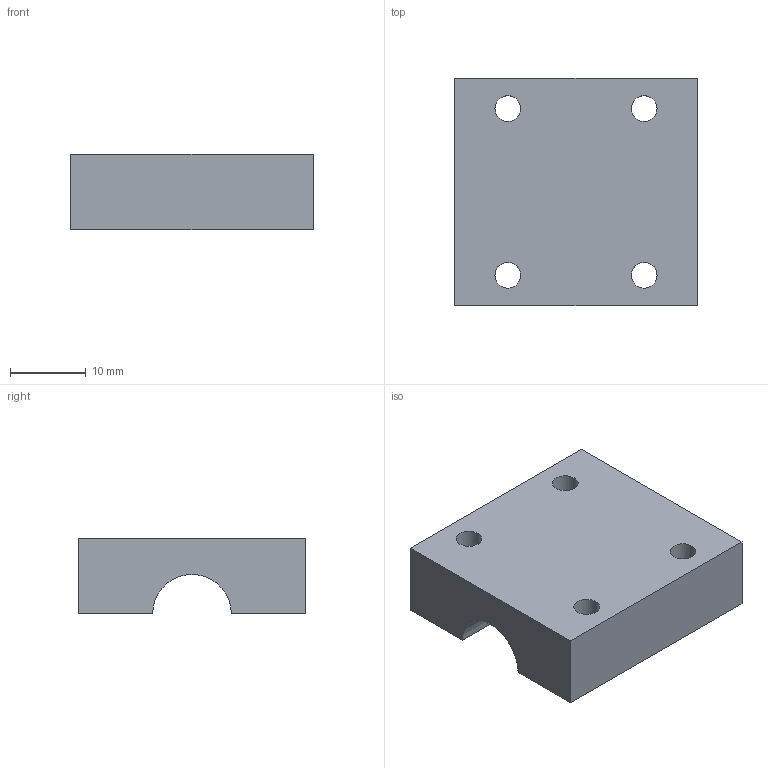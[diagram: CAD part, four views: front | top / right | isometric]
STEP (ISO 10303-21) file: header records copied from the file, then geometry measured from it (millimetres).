
FILE_DESCRIPTION(('Open CASCADE Model'),'2;1');
FILE_NAME('Open CASCADE Shape Model','2026-10-08T14:17:54',('Author'),( 'Open CASCADE'),'Open CASCADE STEP processor 7.9','Open CASCADE 7.9' ,'Unknown');
FILE_SCHEMA(('AUTOMOTIVE_DESIGN { 1 0 10303 214 1 1 1 1 }'));
Length unit declared in the file: millimetre
Products named in the file (1): Open CASCADE STEP translator 7.9 10
Bounding box: 32 x 30 x 10 mm (x, y, z)
Volume: 7877.7 mm3; surface area: 3619.6 mm2
Topology: 1 solids, 1 shells, 12 faces, 30 edges, 20 vertices
Faces by surface type: plane 7, cylinder 5
Full cylindrical faces by diameter (mm): 3.4 x4
Entity records: 794 total; most frequent: CARTESIAN_POINT 199, DIRECTION 100, ORIENTED_EDGE 60, PCURVE 60, DEFINITIONAL_REPRESENTATION 60, LINE 54, VECTOR 54, EDGE_CURVE 30
